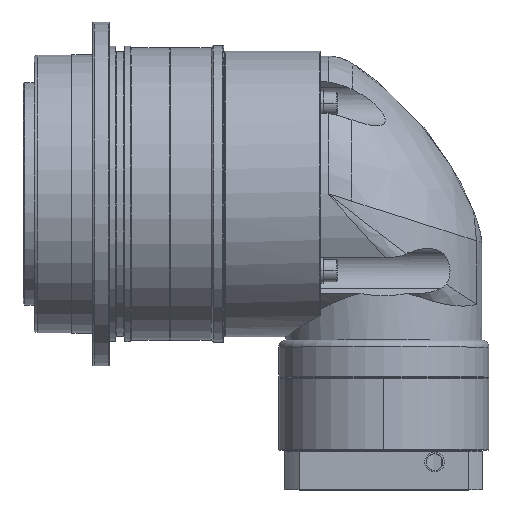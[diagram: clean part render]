
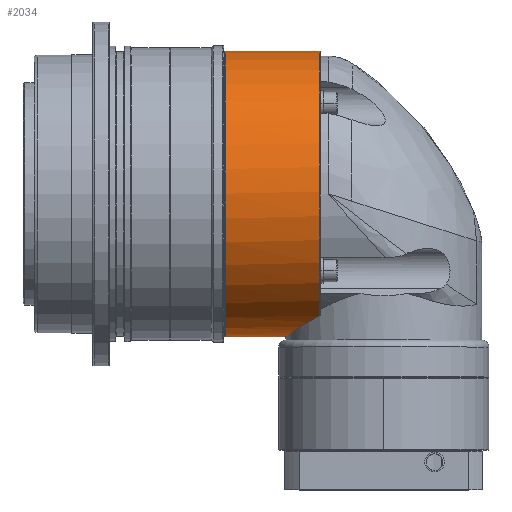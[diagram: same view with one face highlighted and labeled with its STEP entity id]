
A CAD part, top view. The second image highlights one B-rep face of the part: STEP entity #2034.
In plain terms, the highlighted cylindrical face has radius 102.5 mm (diameter 205 mm), a partial arc.
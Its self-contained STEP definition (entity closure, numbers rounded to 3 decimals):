
#486=CARTESIAN_POINT('',(-114.,0.,0.));
#487=DIRECTION('',(1.,0.,0.));
#488=DIRECTION('',(0.,1.,0.));
#489=AXIS2_PLACEMENT_3D('',#486,#487,#488);
#491=CARTESIAN_POINT('',(-46.,-87.476,53.425));
#492=CARTESIAN_POINT('',(-48.215,-88.64,51.518));
#493=CARTESIAN_POINT('',(-52.129,-90.816,47.669));
#494=CARTESIAN_POINT('',(-56.655,-93.501,42.135));
#495=CARTESIAN_POINT('',(-60.197,-95.696,36.861));
#496=CARTESIAN_POINT('',(-63.02,-97.5,31.769));
#497=CARTESIAN_POINT('',(-65.286,-98.982,26.787));
#498=CARTESIAN_POINT('',(-67.124,-100.205,21.778));
#499=CARTESIAN_POINT('',(-68.611,-101.208,16.522));
#500=CARTESIAN_POINT('',(-69.698,-101.949,11.084));
#501=CARTESIAN_POINT('',(-70.356,-102.401,5.535));
#502=CARTESIAN_POINT('',(-70.5,-102.5,1.845));
#503=CARTESIAN_POINT('',(-70.5,-102.5,0.));
#1275=CARTESIAN_POINT('',(-46.,0.,0.));
#1276=DIRECTION('',(1.,0.,0.));
#1277=DIRECTION('',(0.,1.,0.));
#1278=AXIS2_PLACEMENT_3D('',#1275,#1276,#1277);
#1308=DIRECTION('',(-1.,0.,0.));
#1309=VECTOR('',#1308,68.);
#1310=CARTESIAN_POINT('',(-46.,102.5,0.));
#1311=LINE('',#1310,#1309);
#1312=DIRECTION('',(-1.,0.,0.));
#1313=VECTOR('',#1312,43.5);
#1314=CARTESIAN_POINT('',(-70.5,-102.5,0.));
#1315=LINE('',#1314,#1313);
#1748=VERTEX_POINT('',#491);
#1749=VERTEX_POINT('',#503);
#1791=CARTESIAN_POINT('',(-114.,102.5,0.));
#1792=CARTESIAN_POINT('',(-114.,-102.5,0.));
#1793=VERTEX_POINT('',#1791);
#1794=VERTEX_POINT('',#1792);
#1795=CARTESIAN_POINT('',(-46.,102.5,0.));
#1796=VERTEX_POINT('',#1795);
#2018=CARTESIAN_POINT('',(-123.75,0.,0.));
#2019=DIRECTION('',(1.,0.,0.));
#2020=DIRECTION('',(0.,-1.,0.));
#2021=AXIS2_PLACEMENT_3D('',#2018,#2019,#2020);
#2022=CYLINDRICAL_SURFACE('',#2021,102.5);
#2024=ORIENTED_EDGE('',*,*,#2023,.T.);
#2026=ORIENTED_EDGE('',*,*,#2025,.T.);
#2027=ORIENTED_EDGE('',*,*,#2012,.F.);
#2029=ORIENTED_EDGE('',*,*,#2028,.F.);
#2031=ORIENTED_EDGE('',*,*,#2030,.T.);
#2032=EDGE_LOOP('',(#2024,#2026,#2027,#2029,#2031));
#2033=FACE_OUTER_BOUND('',#2032,.F.);
#2034=ADVANCED_FACE('',(#2033),#2022,.T.);
#490=CIRCLE('',#489,102.5);
#504=B_SPLINE_CURVE_WITH_KNOTS('',3,(#491,#492,#493,#494,#495,#496,#497,#498,
#499,#500,#501,#502,#503),.UNSPECIFIED.,.F.,.F.,(4,1,1,1,1,1,1,1,1,1,4),(0.,
0.1,0.2,0.3,0.4,0.5,0.6,0.7,0.8,0.9,1.),.UNSPECIFIED.);
#1279=CIRCLE('',#1278,102.5);
#2012=EDGE_CURVE('',#1793,#1794,#490,.T.);
#2023=EDGE_CURVE('',#1748,#1749,#504,.T.);
#2025=EDGE_CURVE('',#1749,#1794,#1315,.T.);
#2028=EDGE_CURVE('',#1796,#1793,#1311,.T.);
#2030=EDGE_CURVE('',#1796,#1748,#1279,.T.);
